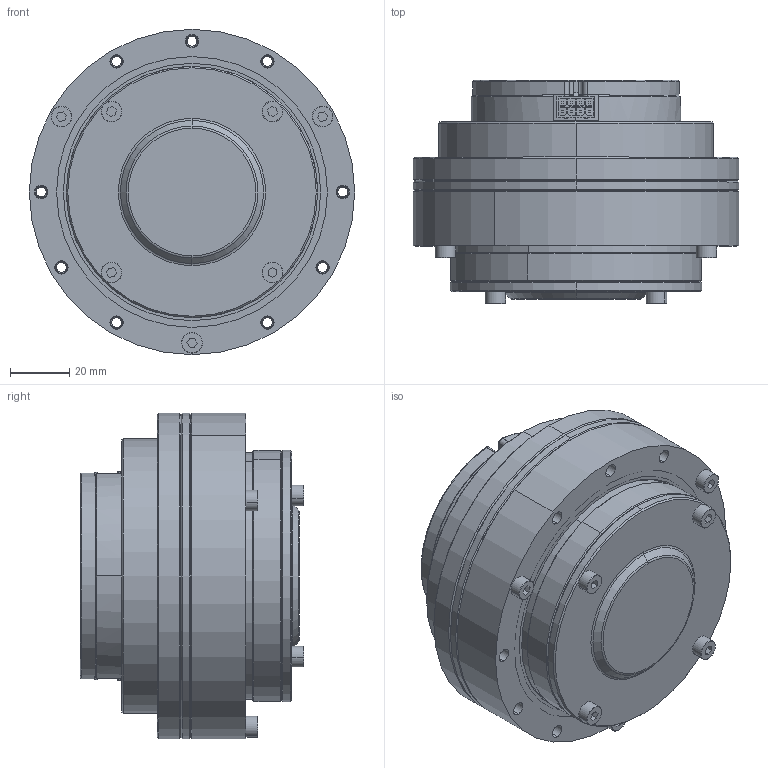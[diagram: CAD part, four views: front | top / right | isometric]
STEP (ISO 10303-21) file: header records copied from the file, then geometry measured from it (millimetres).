
FILE_DESCRIPTION (( 'STEP AP214' ), '1' );
FILE_NAME ('QDD pro-NU80-Ð³²¨Ö´ÐÐÆ÷.STEP', '2021-04-21T06:15:59', ( '' ), ( '' ), 'SwSTEP 2.0', 'SolidWorks 2020', '' );
FILE_SCHEMA (( 'AUTOMOTIVE_DESIGN' ));
Length unit declared in the file: millimetre
Products named in the file (1): QDD pro-NU80-迣疏硒俴ん
Bounding box: 110 x 75.5 x 110 mm (x, y, z)
Volume: 466632.8 mm3; surface area: 91490.4 mm2
Topology: 7 solids, 32 shells, 3757 faces, 9656 edges, 6269 vertices
Faces by surface type: plane 2255, cylinder 837, bspline 386, cone 178, torus 93, sphere 8
Entity records: 181509 total; most frequent: CARTESIAN_POINT 50391, ORIENTED_EDGE 19260, DIRECTION 17604, EDGE_CURVE 9630, VECTOR 6414, LINE 6414, VERTEX_POINT 6265, AXIS2_PLACEMENT_3D 5595
